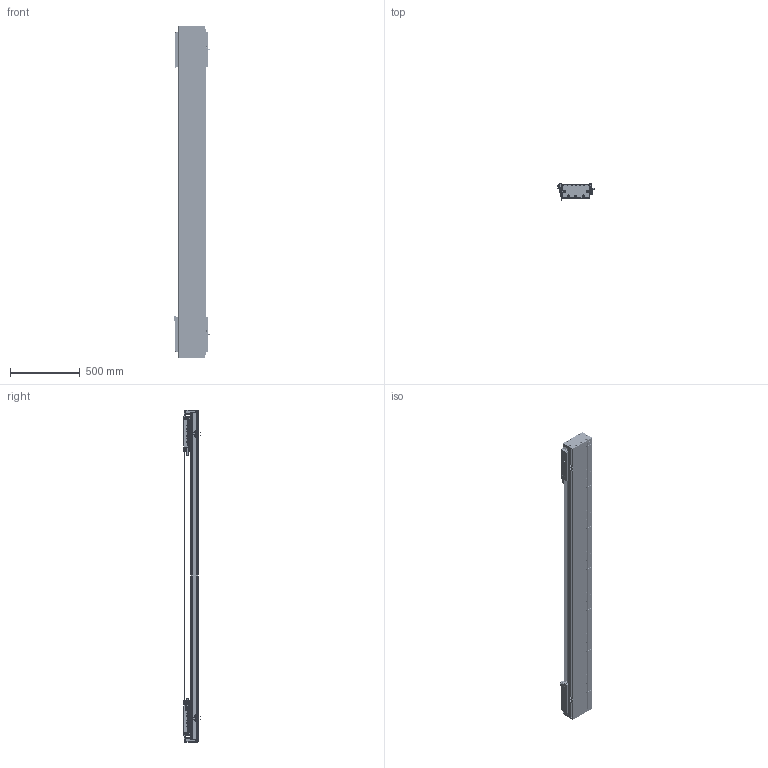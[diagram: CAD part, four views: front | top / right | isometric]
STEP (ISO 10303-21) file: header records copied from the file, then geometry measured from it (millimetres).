
FILE_DESCRIPTION (( 'STEP AP203' ), '1' );
FILE_NAME ('DA-C195-2-C3-T1760-C010-0.2 眻盄萇儂.STEP', '2025-08-15T00:44:04', ( '' ), ( '' ), 'SwSTEP 2.0', 'SolidWorks 2019', '' );
FILE_SCHEMA (( 'CONFIG_CONTROL_DESIGN' ));
Length unit declared in the file: millimetre
Products named in the file (19): MS200 棠掑喜S315-T240; DA195詩湍裔啣; DA195詩湍郪璃; DKW168-HXJ-ZJ-00 笢潔滅袉砎蝶; DKW-KGZ-ZJ-00 中间光电开关支架; DA165-GYP-00 光电感应片(默认); LMT黍杅芛; DA-C195-GD-DB-H-00 傷啣; DA95-HXJ-00 遣喳砎蝶; DKW-GYP-ZJ-00 笢潔嫖萇覜茼え; DA195詩湍菜輸; CU195-C3賑輸-俋楷; DA-C195-2-C3-T1760-C010-0.2 眻盄萇儂; 葩璃 DA95-GT-T-00; IU-CU195-L 菁釱絳寢; DA195詩湍嶺輸; PM-T45ㄗ侂狟ㄘ; PM-Y65嫖萇羲壽郪璃; IU-CU195-L-00 菁釱(L2340)
Assembly tree (37 placements, depth 3):
  DA-C195-2-C3-T1760-C010-0.2 眻盄萇儂
    DA195詩湍郪璃
      DA195詩湍菜輸  x2
      DA195詩湍裔啣
      DA195詩湍嶺輸  x2
      DA95-HXJ-00 遣喳砎蝶  x8
      DA-C195-GD-DB-H-00 傷啣  x2
    IU-CU195-L 菁釱絳寢
      IU-CU195-L-00 菁釱(L2340)
      葩璃 DA95-GT-T-00  x4
    LMT黍杅芛  x2
    MS200 棠掑喜S315-T240
    PM-T45ㄗ侂狟ㄘ  x4
    DA165-GYP-00 光电感应片(默认)  x2
    PM-Y65嫖萇羲壽郪璃
    DKW168-HXJ-ZJ-00 笢潔滅袉砎蝶
    DKW-GYP-ZJ-00 笢潔嫖萇覜茼え
    DKW-KGZ-ZJ-00 中间光电开关支架
    CU195-C3賑輸-俋楷  x2
Bounding box: 258.2 x 115.45 x 2380 mm (x, y, z)
Volume: 15811553.9 mm3; surface area: 4504580.2 mm2
Topology: 154 solids, 218 shells, 6801 faces, 18087 edges, 11253 vertices
Faces by surface type: cylinder 3202, plane 2547, cone 884, torus 88, sphere 72, bspline 8
Entity records: 145131 total; most frequent: CARTESIAN_POINT 38189, ORIENTED_EDGE 22190, DIRECTION 21384, EDGE_CURVE 11095, AXIS2_PLACEMENT_3D 7861, VERTEX_POINT 7178, VECTOR 5662, LINE 5662
